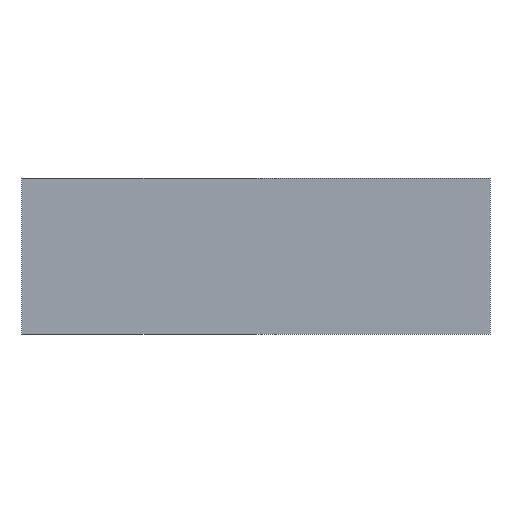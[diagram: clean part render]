
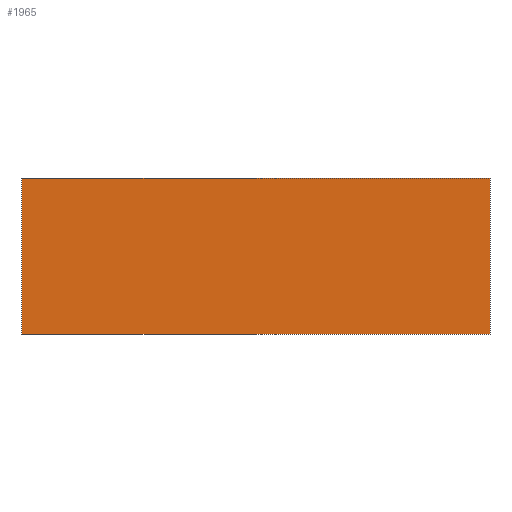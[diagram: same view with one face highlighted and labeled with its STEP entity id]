
A CAD part, front view. The second image highlights one B-rep face of the part: STEP entity #1965.
In plain terms, the highlighted planar face has unit normal (0, -1, 0).
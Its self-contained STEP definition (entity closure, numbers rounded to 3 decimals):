
#44 = VERTEX_POINT('',#45);
#45 = CARTESIAN_POINT('',(-0.3,-0.7,0.2));
#54 = PLANE('',#55);
#55 = AXIS2_PLACEMENT_3D('',#56,#57,#58);
#56 = CARTESIAN_POINT('',(-0.3,-0.7,0.));
#57 = DIRECTION('',(1.,0.,0.));
#58 = DIRECTION('',(0.,0.,1.));
#66 = PLANE('',#67);
#67 = AXIS2_PLACEMENT_3D('',#68,#69,#70);
#68 = CARTESIAN_POINT('',(-0.3,-0.7,0.2));
#69 = DIRECTION('',(0.,0.,1.));
#70 = DIRECTION('',(1.,0.,0.));
#78 = EDGE_CURVE('',#79,#44,#81,.T.);
#79 = VERTEX_POINT('',#80);
#80 = CARTESIAN_POINT('',(-0.3,-0.7,0.));
#81 = SURFACE_CURVE('',#82,(#86,#93),.PCURVE_S1.);
#82 = LINE('',#83,#84);
#83 = CARTESIAN_POINT('',(-0.3,-0.7,0.));
#84 = VECTOR('',#85,1.);
#85 = DIRECTION('',(0.,0.,1.));
#86 = PCURVE('',#54,#87);
#87 = DEFINITIONAL_REPRESENTATION('',(#88),#92);
#88 = LINE('',#89,#90);
#89 = CARTESIAN_POINT('',(0.,0.));
#90 = VECTOR('',#91,1.);
#91 = DIRECTION('',(1.,0.));
#92 = ( GEOMETRIC_REPRESENTATION_CONTEXT(2) 
PARAMETRIC_REPRESENTATION_CONTEXT() REPRESENTATION_CONTEXT('2D SPACE',''
  ) );
#93 = PCURVE('',#94,#99);
#94 = PLANE('',#95);
#95 = AXIS2_PLACEMENT_3D('',#96,#97,#98);
#96 = CARTESIAN_POINT('',(-0.3,-0.7,0.));
#97 = DIRECTION('',(0.,1.,0.));
#98 = DIRECTION('',(0.,0.,1.));
#99 = DEFINITIONAL_REPRESENTATION('',(#100),#104);
#100 = LINE('',#101,#102);
#101 = CARTESIAN_POINT('',(0.,0.));
#102 = VECTOR('',#103,1.);
#103 = DIRECTION('',(1.,0.));
#104 = ( GEOMETRIC_REPRESENTATION_CONTEXT(2) 
PARAMETRIC_REPRESENTATION_CONTEXT() REPRESENTATION_CONTEXT('2D SPACE',''
  ) );
#122 = PLANE('',#123);
#123 = AXIS2_PLACEMENT_3D('',#124,#125,#126);
#124 = CARTESIAN_POINT('',(-0.3,-0.7,0.));
#125 = DIRECTION('',(0.,0.,1.));
#126 = DIRECTION('',(1.,0.,0.));
#164 = EDGE_CURVE('',#44,#165,#167,.T.);
#165 = VERTEX_POINT('',#166);
#166 = CARTESIAN_POINT('',(0.3,-0.7,0.2));
#167 = SURFACE_CURVE('',#168,(#172,#179),.PCURVE_S1.);
#168 = LINE('',#169,#170);
#169 = CARTESIAN_POINT('',(-0.3,-0.7,0.2));
#170 = VECTOR('',#171,1.);
#171 = DIRECTION('',(1.,0.,0.));
#172 = PCURVE('',#66,#173);
#173 = DEFINITIONAL_REPRESENTATION('',(#174),#178);
#174 = LINE('',#175,#176);
#175 = CARTESIAN_POINT('',(0.,0.));
#176 = VECTOR('',#177,1.);
#177 = DIRECTION('',(1.,0.));
#178 = ( GEOMETRIC_REPRESENTATION_CONTEXT(2) 
PARAMETRIC_REPRESENTATION_CONTEXT() REPRESENTATION_CONTEXT('2D SPACE',''
  ) );
#179 = PCURVE('',#94,#180);
#180 = DEFINITIONAL_REPRESENTATION('',(#181),#185);
#181 = LINE('',#182,#183);
#182 = CARTESIAN_POINT('',(0.2,0.));
#183 = VECTOR('',#184,1.);
#184 = DIRECTION('',(0.,1.));
#185 = ( GEOMETRIC_REPRESENTATION_CONTEXT(2) 
PARAMETRIC_REPRESENTATION_CONTEXT() REPRESENTATION_CONTEXT('2D SPACE',''
  ) );
#203 = PLANE('',#204);
#204 = AXIS2_PLACEMENT_3D('',#205,#206,#207);
#205 = CARTESIAN_POINT('',(0.3,-0.7,0.));
#206 = DIRECTION('',(1.,0.,0.));
#207 = DIRECTION('',(0.,0.,1.));
#1185 = EDGE_CURVE('',#79,#1186,#1188,.T.);
#1186 = VERTEX_POINT('',#1187);
#1187 = CARTESIAN_POINT('',(0.3,-0.7,0.));
#1188 = SURFACE_CURVE('',#1189,(#1193,#1200),.PCURVE_S1.);
#1189 = LINE('',#1190,#1191);
#1190 = CARTESIAN_POINT('',(-0.3,-0.7,0.));
#1191 = VECTOR('',#1192,1.);
#1192 = DIRECTION('',(1.,0.,0.));
#1193 = PCURVE('',#122,#1194);
#1194 = DEFINITIONAL_REPRESENTATION('',(#1195),#1199);
#1195 = LINE('',#1196,#1197);
#1196 = CARTESIAN_POINT('',(0.,0.));
#1197 = VECTOR('',#1198,1.);
#1198 = DIRECTION('',(1.,0.));
#1199 = ( GEOMETRIC_REPRESENTATION_CONTEXT(2) 
PARAMETRIC_REPRESENTATION_CONTEXT() REPRESENTATION_CONTEXT('2D SPACE',''
  ) );
#1200 = PCURVE('',#94,#1201);
#1201 = DEFINITIONAL_REPRESENTATION('',(#1202),#1206);
#1202 = LINE('',#1203,#1204);
#1203 = CARTESIAN_POINT('',(0.,0.));
#1204 = VECTOR('',#1205,1.);
#1205 = DIRECTION('',(0.,1.));
#1206 = ( GEOMETRIC_REPRESENTATION_CONTEXT(2) 
PARAMETRIC_REPRESENTATION_CONTEXT() REPRESENTATION_CONTEXT('2D SPACE',''
  ) );
#1965 = ADVANCED_FACE('',(#1966),#94,.F.);
#1966 = FACE_BOUND('',#1967,.F.);
#1967 = EDGE_LOOP('',(#1968,#1969,#1970,#1971));
#1968 = ORIENTED_EDGE('',*,*,#1185,.F.);
#1969 = ORIENTED_EDGE('',*,*,#78,.T.);
#1970 = ORIENTED_EDGE('',*,*,#164,.T.);
#1971 = ORIENTED_EDGE('',*,*,#1972,.F.);
#1972 = EDGE_CURVE('',#1186,#165,#1973,.T.);
#1973 = SURFACE_CURVE('',#1974,(#1978,#1985),.PCURVE_S1.);
#1974 = LINE('',#1975,#1976);
#1975 = CARTESIAN_POINT('',(0.3,-0.7,0.));
#1976 = VECTOR('',#1977,1.);
#1977 = DIRECTION('',(0.,0.,1.));
#1978 = PCURVE('',#94,#1979);
#1979 = DEFINITIONAL_REPRESENTATION('',(#1980),#1984);
#1980 = LINE('',#1981,#1982);
#1981 = CARTESIAN_POINT('',(0.,0.6));
#1982 = VECTOR('',#1983,1.);
#1983 = DIRECTION('',(1.,0.));
#1984 = ( GEOMETRIC_REPRESENTATION_CONTEXT(2) 
PARAMETRIC_REPRESENTATION_CONTEXT() REPRESENTATION_CONTEXT('2D SPACE',''
  ) );
#1985 = PCURVE('',#203,#1986);
#1986 = DEFINITIONAL_REPRESENTATION('',(#1987),#1991);
#1987 = LINE('',#1988,#1989);
#1988 = CARTESIAN_POINT('',(0.,0.));
#1989 = VECTOR('',#1990,1.);
#1990 = DIRECTION('',(1.,0.));
#1991 = ( GEOMETRIC_REPRESENTATION_CONTEXT(2) 
PARAMETRIC_REPRESENTATION_CONTEXT() REPRESENTATION_CONTEXT('2D SPACE',''
  ) );
